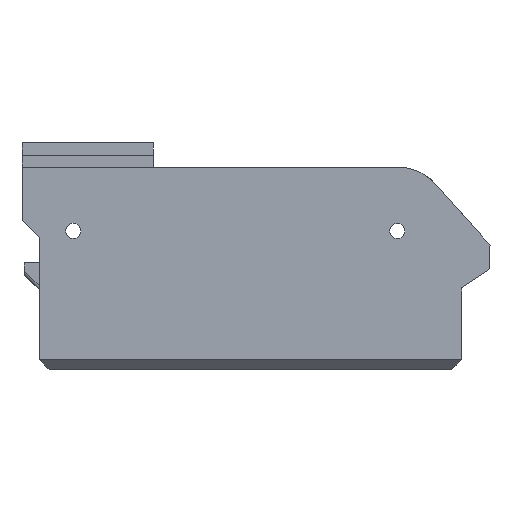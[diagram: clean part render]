
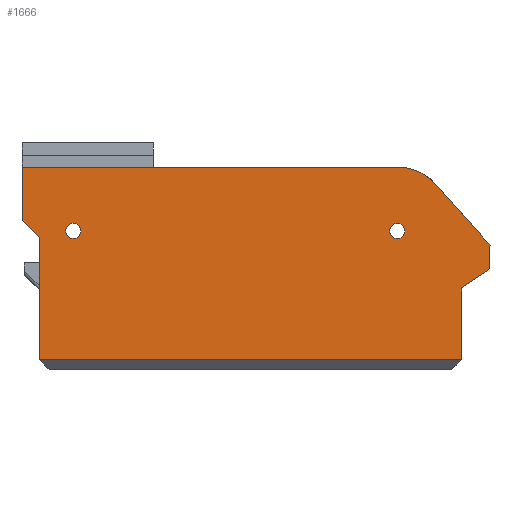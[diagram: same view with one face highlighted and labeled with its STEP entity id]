
A CAD part, left-side view. The second image highlights one B-rep face of the part: STEP entity #1666.
In plain terms, the highlighted planar face has unit normal (-1, 0, 0).
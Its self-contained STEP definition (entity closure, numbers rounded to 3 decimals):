
#569=CARTESIAN_POINT('',(-10.594,418.646,-82.366));
#570=VERTEX_POINT('',#569);
#577=CARTESIAN_POINT('',(-10.594,418.646,-57.516));
#578=VERTEX_POINT('',#577);
#579=CARTESIAN_POINT('',(-10.594,418.646,-82.366));
#580=DIRECTION('',(0.,0.,1.));
#581=VECTOR('',#580,24.85);
#582=LINE('',#579,#581);
#583=EDGE_CURVE('',#570,#578,#582,.T.);
#1169=CARTESIAN_POINT('',(-10.594,422.145,-43.208));
#1170=VERTEX_POINT('',#1169);
#1179=CARTESIAN_POINT('',(-10.594,345.516,-43.21));
#1180=VERTEX_POINT('',#1179);
#1181=CARTESIAN_POINT('',(-10.594,345.516,-43.21));
#1182=DIRECTION('',(0.,1.,0.));
#1183=VECTOR('',#1182,76.629);
#1184=LINE('',#1181,#1183);
#1185=EDGE_CURVE('',#1180,#1170,#1184,.T.);
#1269=CARTESIAN_POINT('',(-10.594,332.646,-82.369));
#1270=VERTEX_POINT('',#1269);
#1271=CARTESIAN_POINT('',(-10.594,332.646,-67.79));
#1272=VERTEX_POINT('',#1271);
#1273=CARTESIAN_POINT('',(-10.594,332.646,-82.369));
#1274=DIRECTION('',(0.,0.,1.));
#1275=VECTOR('',#1274,14.579);
#1276=LINE('',#1273,#1275);
#1277=EDGE_CURVE('',#1270,#1272,#1276,.T.);
#1565=CARTESIAN_POINT('',(-10.594,332.646,-63.79));
#1566=DIRECTION('',(-1.,-0.,0.));
#1567=DIRECTION('',(0.,0.,1.));
#1568=AXIS2_PLACEMENT_3D('',#1565,#1566,#1567);
#1569=PLANE('',#1568);
#1570=CARTESIAN_POINT('',(-10.594,411.707,-57.724));
#1571=VERTEX_POINT('',#1570);
#1572=CARTESIAN_POINT('',(-10.594,411.707,-54.624));
#1573=VERTEX_POINT('',#1572);
#1574=CARTESIAN_POINT('',(-10.594,411.707,-56.174));
#1575=DIRECTION('',(-1.,-0.,0.));
#1576=DIRECTION('',(0.,0.,1.));
#1577=AXIS2_PLACEMENT_3D('',#1574,#1575,#1576);
#1578=CIRCLE('',#1577,1.55);
#1579=EDGE_CURVE('',#1571,#1573,#1578,.T.);
#1580=ORIENTED_EDGE('',*,*,#1579,.F.);
#1581=CARTESIAN_POINT('',(-10.594,411.707,-56.174));
#1582=DIRECTION('',(-1.,-0.,0.));
#1583=DIRECTION('',(0.,0.,1.));
#1584=AXIS2_PLACEMENT_3D('',#1581,#1582,#1583);
#1585=CIRCLE('',#1584,1.55);
#1586=EDGE_CURVE('',#1573,#1571,#1585,.T.);
#1587=ORIENTED_EDGE('',*,*,#1586,.F.);
#1588=EDGE_LOOP('',(#1580,#1587));
#1589=FACE_BOUND('',#1588,.T.);
#1590=CARTESIAN_POINT('',(-10.594,345.707,-57.724));
#1591=VERTEX_POINT('',#1590);
#1592=CARTESIAN_POINT('',(-10.594,345.707,-54.624));
#1593=VERTEX_POINT('',#1592);
#1594=CARTESIAN_POINT('',(-10.594,345.707,-56.174));
#1595=DIRECTION('',(-1.,-0.,0.));
#1596=DIRECTION('',(0.,0.,1.));
#1597=AXIS2_PLACEMENT_3D('',#1594,#1595,#1596);
#1598=CIRCLE('',#1597,1.55);
#1599=EDGE_CURVE('',#1591,#1593,#1598,.T.);
#1600=ORIENTED_EDGE('',*,*,#1599,.F.);
#1601=CARTESIAN_POINT('',(-10.594,345.707,-56.174));
#1602=DIRECTION('',(-1.,-0.,0.));
#1603=DIRECTION('',(0.,0.,1.));
#1604=AXIS2_PLACEMENT_3D('',#1601,#1602,#1603);
#1605=CIRCLE('',#1604,1.55);
#1606=EDGE_CURVE('',#1593,#1591,#1605,.T.);
#1607=ORIENTED_EDGE('',*,*,#1606,.F.);
#1608=EDGE_LOOP('',(#1600,#1607));
#1609=FACE_BOUND('',#1608,.T.);
#1610=CARTESIAN_POINT('',(-10.594,422.145,-54.016));
#1611=VERTEX_POINT('',#1610);
#1612=CARTESIAN_POINT('',(-10.594,422.145,-54.016));
#1613=DIRECTION('',(-0.,-0.707,-0.707));
#1614=VECTOR('',#1613,4.95);
#1615=LINE('',#1612,#1614);
#1616=EDGE_CURVE('',#1611,#578,#1615,.T.);
#1617=ORIENTED_EDGE('',*,*,#1616,.T.);
#1618=ORIENTED_EDGE('',*,*,#583,.F.);
#1619=CARTESIAN_POINT('',(-10.594,418.646,-82.366));
#1620=DIRECTION('',(0.,-1.,0.));
#1621=VECTOR('',#1620,86.);
#1622=LINE('',#1619,#1621);
#1623=EDGE_CURVE('',#570,#1270,#1622,.T.);
#1624=ORIENTED_EDGE('',*,*,#1623,.T.);
#1625=ORIENTED_EDGE('',*,*,#1277,.T.);
#1626=CARTESIAN_POINT('',(-10.594,326.846,-63.923));
#1627=VERTEX_POINT('',#1626);
#1628=CARTESIAN_POINT('',(-10.594,332.646,-67.79));
#1629=DIRECTION('',(0.,-0.832,0.555));
#1630=VECTOR('',#1629,6.971);
#1631=LINE('',#1628,#1630);
#1632=EDGE_CURVE('',#1272,#1627,#1631,.T.);
#1633=ORIENTED_EDGE('',*,*,#1632,.T.);
#1634=CARTESIAN_POINT('',(-10.594,326.846,-59.049));
#1635=VERTEX_POINT('',#1634);
#1636=CARTESIAN_POINT('',(-10.594,326.846,-63.923));
#1637=DIRECTION('',(0.,0.,1.));
#1638=VECTOR('',#1637,4.875);
#1639=LINE('',#1636,#1638);
#1640=EDGE_CURVE('',#1627,#1635,#1639,.T.);
#1641=ORIENTED_EDGE('',*,*,#1640,.T.);
#1642=CARTESIAN_POINT('',(-10.594,338.072,-46.533));
#1643=VERTEX_POINT('',#1642);
#1644=CARTESIAN_POINT('',(-10.594,338.072,-46.533));
#1645=DIRECTION('',(-0.,-0.668,-0.744));
#1646=VECTOR('',#1645,16.813);
#1647=LINE('',#1644,#1646);
#1648=EDGE_CURVE('',#1643,#1635,#1647,.T.);
#1649=ORIENTED_EDGE('',*,*,#1648,.F.);
#1650=CARTESIAN_POINT('',(-10.594,345.516,-53.21));
#1651=DIRECTION('',(-1.,-0.,0.));
#1652=DIRECTION('',(0.,0.,1.));
#1653=AXIS2_PLACEMENT_3D('',#1650,#1651,#1652);
#1654=CIRCLE('',#1653,10.);
#1655=EDGE_CURVE('',#1643,#1180,#1654,.T.);
#1656=ORIENTED_EDGE('',*,*,#1655,.T.);
#1657=ORIENTED_EDGE('',*,*,#1185,.T.);
#1658=CARTESIAN_POINT('',(-10.594,422.145,-54.016));
#1659=DIRECTION('',(0.,0.,1.));
#1660=VECTOR('',#1659,10.808);
#1661=LINE('',#1658,#1660);
#1662=EDGE_CURVE('',#1611,#1170,#1661,.T.);
#1663=ORIENTED_EDGE('',*,*,#1662,.F.);
#1664=EDGE_LOOP('',(#1617,#1618,#1624,#1625,#1633,#1641,#1649,#1656,#1657,#1663));
#1665=FACE_BOUND('',#1664,.T.);
#1666=ADVANCED_FACE('',(#1589,#1609,#1665),#1569,.T.);
